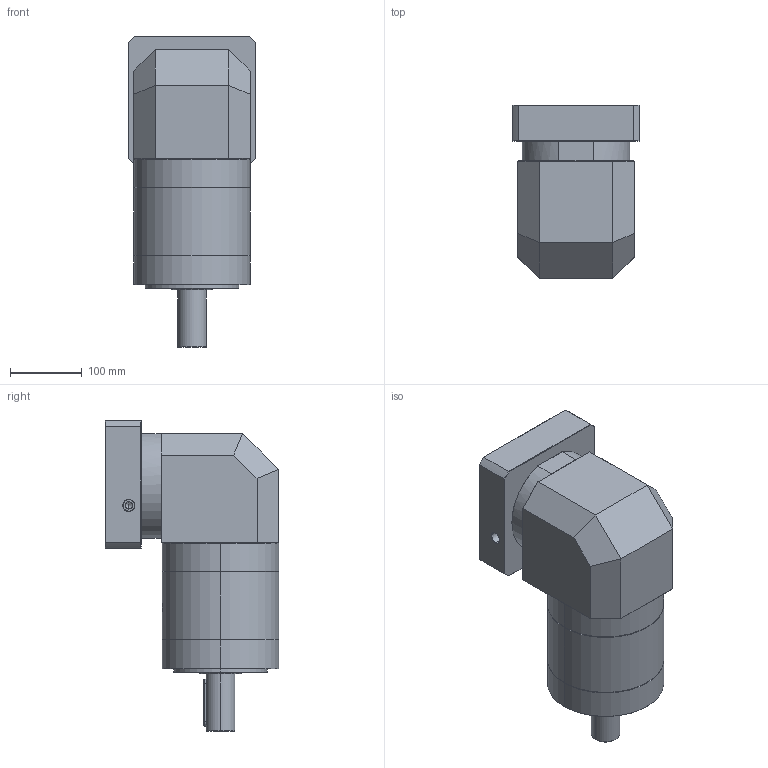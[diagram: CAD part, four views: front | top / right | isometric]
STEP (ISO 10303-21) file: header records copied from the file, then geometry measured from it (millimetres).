
FILE_DESCRIPTION (( 'STEP AP214' ), '1' );
FILE_NAME ('ZER160A-D40-L3-P2-35-114.3-200-M12.step', '2023-09-04T08:14:47', ( '' ), ( '' ), 'SwSTEP 2.0', 'SolidWorks 2016', '' );
FILE_SCHEMA (( 'AUTOMOTIVE_DESIGN' ));
Length unit declared in the file: millimetre
Products named in the file (1): ZER160A-D40-L3-P2-35-114.3-200-M12
Bounding box: 178 x 241 x 432.7 mm (x, y, z)
Volume: 8545082.4 mm3; surface area: 487620.3 mm2
Topology: 6 solids, 6 shells, 2321 faces, 6179 edges, 3961 vertices
Faces by surface type: plane 1041, cylinder 524, bspline 426, cone 308, torus 22
Entity records: 144260 total; most frequent: CARTESIAN_POINT 67183, ORIENTED_EDGE 12282, DIRECTION 8702, EDGE_CURVE 6141, VERTEX_POINT 3961, VECTOR 3218, LINE 3218, AXIS2_PLACEMENT_3D 2742
